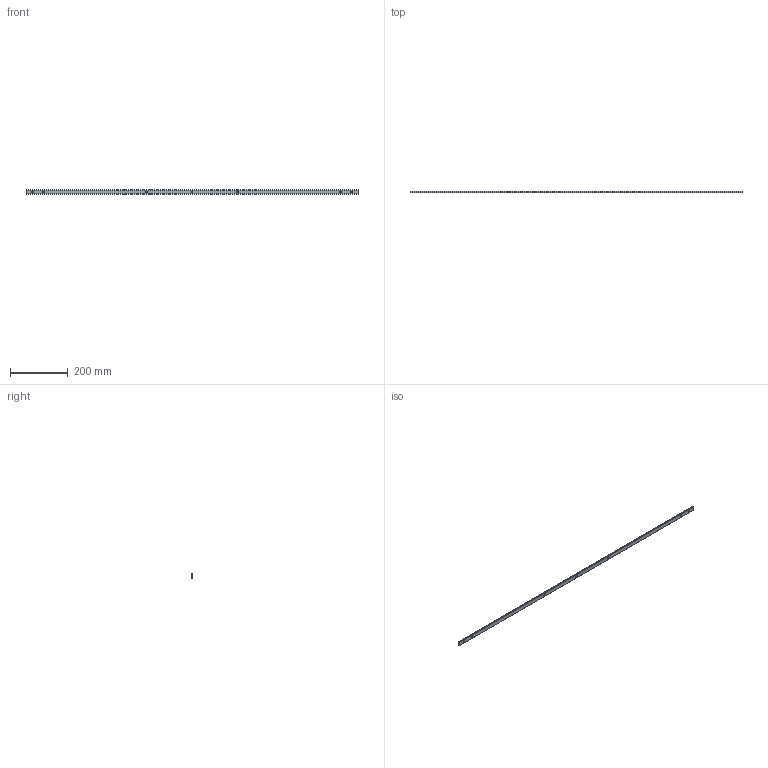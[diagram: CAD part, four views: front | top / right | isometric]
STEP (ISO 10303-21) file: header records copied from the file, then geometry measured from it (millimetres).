
FILE_DESCRIPTION (( 'STEP AP214' ), '1' );
FILE_NAME ('Øèíà ìåäíàÿ çàçåìëåíèÿ 15õ5x1145.STEP', '2022-06-27T08:21:29', ( '' ), ( '' ), 'SwSTEP 2.0', 'SolidWorks 2018', '' );
FILE_SCHEMA (( 'AUTOMOTIVE_DESIGN' ));
Length unit declared in the file: millimetre
Products named in the file (1): Øèíà ìåäíàÿ çàçåìëåíèÿ 15õ5x1145
Bounding box: 1145 x 5 x 15 mm (x, y, z)
Volume: 83730.7 mm3; surface area: 44232.7 mm2
Topology: 1 solids, 1 shells, 24 faces, 66 edges, 44 vertices
Faces by surface type: cylinder 18, plane 6
Entity records: 848 total; most frequent: DIRECTION 152, CARTESIAN_POINT 135, ORIENTED_EDGE 132, EDGE_CURVE 66, AXIS2_PLACEMENT_3D 61, VERTEX_POINT 44, EDGE_LOOP 38, CIRCLE 36
